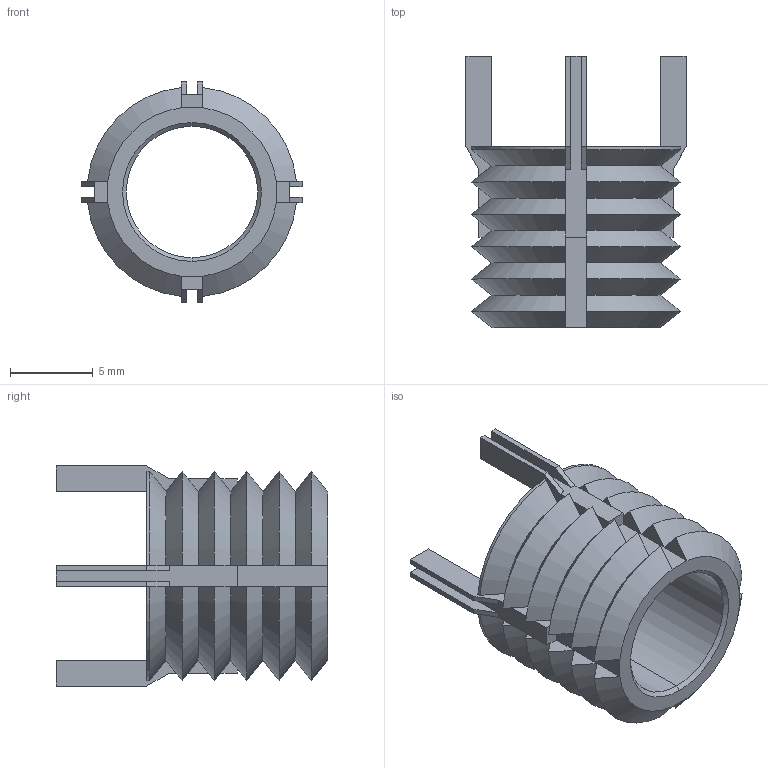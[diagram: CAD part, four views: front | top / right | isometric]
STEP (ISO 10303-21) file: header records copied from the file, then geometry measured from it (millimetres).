
FILE_DESCRIPTION (( 'STEP AP203' ), '1' );
FILE_NAME ('TR1565.66303.step', '2023-03-29T14:30:48', ( '' ), ( '' ), 'SwSTEP 2.0', 'SolidWorks 2019', '' );
FILE_SCHEMA (( 'CONFIG_CONTROL_DESIGN' ));
Length unit declared in the file: inch
Products named in the file (3): Part2_TR1565.66303; TR1565.66303; Part1_TR1565.66303
Assembly tree (5 placements, depth 2):
  TR1565.66303
    Part1_TR1565.66303
    Part2_TR1565.66303  x4
Bounding box: 13.31 x 16.38 x 13.31 mm (x, y, z)
Volume: 616.6 mm3; surface area: 1284.9 mm2
Topology: 5 solids, 5 shells, 156 faces, 346 edges, 200 vertices
Faces by surface type: plane 102, cone 48, cylinder 6
Entity records: 3663 total; most frequent: CARTESIAN_POINT 848, ORIENTED_EDGE 512, DIRECTION 484, EDGE_CURVE 256, AXIS2_PLACEMENT_3D 188, VERTEX_POINT 140, EDGE_LOOP 122, ADVANCED_FACE 120
